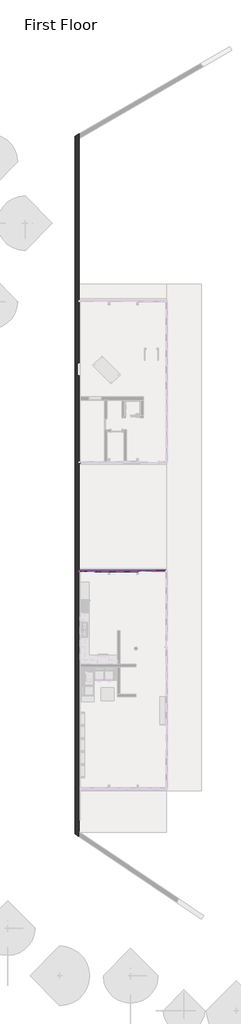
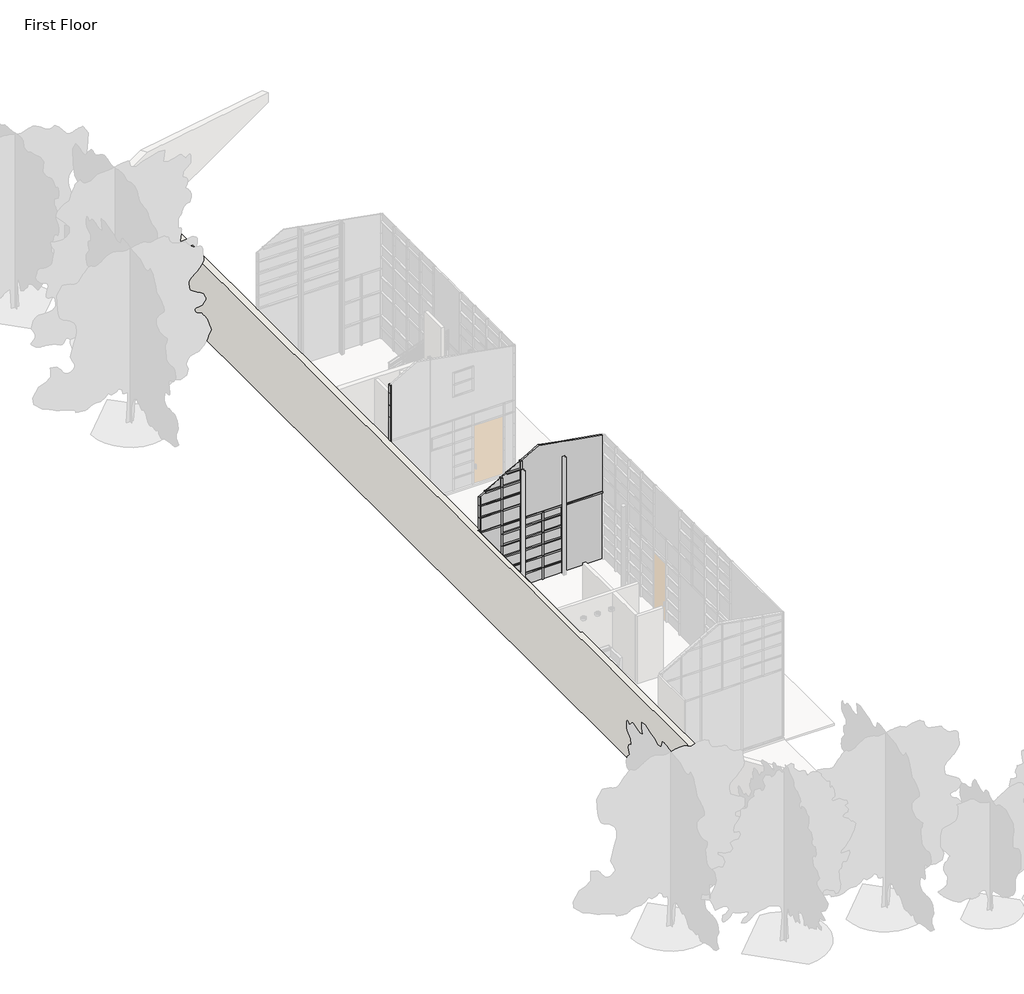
# One storey, part 2 of 9: 78 members, 30 plates, 1 wall.
"""IFC4 building model written with IfcOpenShell, lengths in millimetres."""

from ifc_helpers import new_model, si_unit, origin, place, context, project, spatial, faceted_brep, transform, mapped, element, save
from components import rectangular_mullion_rectangular_mullion_1_0c9537f6, rectangular_mullion_rectangular_mullion_1_8a9972a7, rectangular_mullion_rectangular_mullion_1_04191cc5, rectangular_mullion_rectangular_mullion_1_625e80b1, rectangular_mullion_rectangular_mullion_1_799ad812, rectangular_mullion_rectangular_mullion_1_05a5b005, rectangular_mullion_rectangular_mullion_1_3182e34d, rectangular_mullion_rectangular_mullion_1_9767f737, rectangular_mullion_rectangular_mullion_1_ac8843ff, rectangular_mullion_rectangular_mullion_1_92001cf6, rectangular_mullion_rectangular_mullion_1_4e56fbd5, rectangular_mullion_rectangular_mullion_1_da89ca8f, rectangular_mullion_rectangular_mullion_1_6e77e263, rectangular_mullion_rectangular_mullion_1_47bfaf8a, rectangular_mullion_rectangular_mullion_1_e94b0608, rectangular_mullion_rectangular_mullion_1_73fada49, rectangular_mullion_rectangular_mullion_1_c5a7d1f2, rectangular_mullion_rectangular_mullion_1_b0e0489a, rectangular_mullion_rectangular_mullion_1_e0487b50, system_panel_glazed_4b4da262, system_panel_glazed_849c0ae1, system_panel_glazed_23be9bc1, system_panel_glazed_2f6243bf, system_panel_glazed_5ad847c7, system_panel_glazed_751737c8, system_panel_glazed_610acd6b, system_panel_glazed_ef14c706, system_panel_glazed_11174a6d, system_panel_glazed_4cf37795, system_panel_solid_grey_07544abd, system_panel_solid_white_ec30824c, system_panel_solid_white_56e32685, system_panel_solid_white_18a98e17, system_panel_solid_white_917bb94f, system_panel_solid_white_f0d8491f, system_panel_solid_white_7c94aa88, system_panel_solid_white_6cf558b3, system_panel_solid_white_9fce84d4, system_panel_solid_white_5e570f98, system_panel_solid_white_91adc7ba, system_panel_wood_dark_296b77de

model = new_model("IFC4")

# Units and contexts
model_context = context("Model", 3, world=origin())
ifc_project = project(units=[si_unit("LENGTHUNIT", "METRE", prefix="MILLI")], contexts=[model_context])

# Site, building, storey
site = spatial("IfcSite", under=ifc_project)
building = spatial("IfcBuilding", under=site)
storey = spatial("IfcBuildingStorey", under=building, Name="First Floor", Elevation=0.0)

# Members
placement = place(None, origin())
rectangular_mullion_rectangular_mullion_1_shape = rectangular_mullion_rectangular_mullion_1_0c9537f6(model_context)
element("IfcMember", 1, ObjectType="Rectangular Mullion : Rectangular Mullion 1", at=placement, inside=storey, context=model_context, shape_type="MappedRepresentation", body=[
    mapped(rectangular_mullion_rectangular_mullion_1_shape, transform((-6113.1401664, 24371.1084583, 4876.8), x_axis=(-1.0, 0.0, 0.0), y_axis=(0.0, -1.0, 0.0), z_axis=(0.0, 0.0, 1.0))),
])
rectangular_mullion_rectangular_mullion_1_2_shape = rectangular_mullion_rectangular_mullion_1_8a9972a7(model_context)
element("IfcMember", 2, ObjectType="Rectangular Mullion : Rectangular Mullion 1", at=placement, inside=storey, context=model_context, shape_type="MappedRepresentation", body=[
    mapped(rectangular_mullion_rectangular_mullion_1_2_shape, transform((-6113.1401664, 24371.1084583, 3647.5475583), x_axis=(-1.0, 0.0, 0.0), y_axis=(0.0, -1.0, 0.0), z_axis=(0.0, 0.0, 1.0))),
])
rectangular_mullion_rectangular_mullion_1_3_shape = rectangular_mullion_rectangular_mullion_1_04191cc5(model_context)
element("IfcMember", 3, ObjectType="Rectangular Mullion : Rectangular Mullion 1", at=placement, inside=storey, context=model_context, shape_type="MappedRepresentation", body=[
    mapped(rectangular_mullion_rectangular_mullion_1_3_shape, transform((-6113.1401664, 24371.1084583, 6535.9409051), x_axis=(-1.0, 0.0, 0.0), y_axis=(0.0, -1.0, 0.0), z_axis=(0.0, 0.0, 1.0))),
])
rectangular_mullion_rectangular_mullion_1_4_shape = rectangular_mullion_rectangular_mullion_1_625e80b1(model_context)
element("IfcMember", 4, ObjectType="Rectangular Mullion : Rectangular Mullion 1", at=placement, inside=storey, context=model_context, shape_type="MappedRepresentation", body=[
    mapped(rectangular_mullion_rectangular_mullion_1_4_shape, transform((-4062.0901664, 16751.1084583, 3501.4973635), x_axis=(1.0, 0.0, 0.0), y_axis=(0.0, -1.0, 0.0), z_axis=(0.0, 0.0, -1.0))),
])
element("IfcMember", 5, ObjectType="Rectangular Mullion : Rectangular Mullion 1", at=placement, inside=storey, context=model_context, shape_type="MappedRepresentation", body=[
    mapped(rectangular_mullion_rectangular_mullion_1_4_shape, transform((-5013.5318331, 16751.1084583, 3501.4973635), x_axis=(1.0, 0.0, 0.0), y_axis=(0.0, -1.0, 0.0), z_axis=(0.0, 0.0, -1.0))),
])
rectangular_mullion_rectangular_mullion_1_5_shape = rectangular_mullion_rectangular_mullion_1_799ad812(model_context)
element("IfcMember", 6, ObjectType="Rectangular Mullion : Rectangular Mullion 1", at=placement, inside=storey, context=model_context, shape_type="MappedRepresentation", body=[
    mapped(rectangular_mullion_rectangular_mullion_1_5_shape, transform((-4093.8401664, 16751.1084583, 6096.0), x_axis=(0.0, 0.0, 1.0), y_axis=(0.0, -1.0, 0.0), z_axis=(1.0, 0.0, 0.0))),
])
rectangular_mullion_rectangular_mullion_1_6_shape = rectangular_mullion_rectangular_mullion_1_05a5b005(model_context)
element("IfcMember", 7, ObjectType="Rectangular Mullion : Rectangular Mullion 1", at=placement, inside=storey, context=model_context, shape_type="MappedRepresentation", body=[
    mapped(rectangular_mullion_rectangular_mullion_1_6_shape, transform((-4062.0901664, 16751.1084583, 6096.0), x_axis=(1.0, 0.0, 0.0), y_axis=(0.0, -1.0, 0.0), z_axis=(0.0, 0.0, -1.0))),
])
rectangular_mullion_rectangular_mullion_1_7_shape = rectangular_mullion_rectangular_mullion_1_3182e34d(model_context)
element("IfcMember", 8, ObjectType="Rectangular Mullion : Rectangular Mullion 1", at=placement, inside=storey, context=model_context, shape_type="MappedRepresentation", body=[
    mapped(rectangular_mullion_rectangular_mullion_1_7_shape, transform((-5013.5318331, 16751.1084583, 5486.4), x_axis=(1.0, 0.0, 0.0), y_axis=(0.0, -1.0, 0.0), z_axis=(0.0, 0.0, -1.0))),
])
rectangular_mullion_rectangular_mullion_1_8_shape = rectangular_mullion_rectangular_mullion_1_9767f737(model_context)
element("IfcMember", 9, ObjectType="Rectangular Mullion : Rectangular Mullion 1", at=placement, inside=storey, context=model_context, shape_type="MappedRepresentation", body=[
    mapped(rectangular_mullion_rectangular_mullion_1_8_shape, transform((-5013.5318331, 16751.1084583, 3048.0), x_axis=(1.0, 0.0, 0.0), y_axis=(0.0, -1.0, 0.0), z_axis=(0.0, 0.0, -1.0))),
])
element("IfcMember", 10, ObjectType="Rectangular Mullion : Rectangular Mullion 1", at=placement, inside=storey, context=model_context, shape_type="MappedRepresentation", body=[
    mapped(rectangular_mullion_rectangular_mullion_1_8_shape, transform((-4062.0901664, 16751.1084583, 3048.0), x_axis=(1.0, 0.0, 0.0), y_axis=(0.0, -1.0, 0.0), z_axis=(0.0, 0.0, -1.0))),
])
rectangular_mullion_rectangular_mullion_1_9_shape = rectangular_mullion_rectangular_mullion_1_ac8843ff(model_context)
element("IfcMember", 11, ObjectType="Rectangular Mullion : Rectangular Mullion 1", at=placement, inside=storey, context=model_context, shape_type="MappedRepresentation", body=[
    mapped(rectangular_mullion_rectangular_mullion_1_9_shape, transform((-3001.6401664, 16751.1084583, 3048.0), x_axis=(1.0, 0.0, 0.0), y_axis=(0.0, -1.0, 0.0), z_axis=(0.0, 0.0, -1.0))),
])
element("IfcMember", 12, ObjectType="Rectangular Mullion : Rectangular Mullion 1", at=placement, inside=storey, context=model_context, shape_type="MappedRepresentation", body=[
    mapped(rectangular_mullion_rectangular_mullion_1_9_shape, transform((-2042.7901664, 16751.1084583, 3048.0), x_axis=(1.0, 0.0, 0.0), y_axis=(0.0, -1.0, 0.0), z_axis=(0.0, 0.0, -1.0))),
])
rectangular_mullion_rectangular_mullion_1_10_shape = rectangular_mullion_rectangular_mullion_1_92001cf6(model_context)
element("IfcMember", 13, ObjectType="Rectangular Mullion : Rectangular Mullion 1", at=placement, inside=storey, context=model_context, shape_type="MappedRepresentation", body=[
    mapped(rectangular_mullion_rectangular_mullion_1_10_shape, transform((-6113.1401664, 16751.1084583, 4267.2), x_axis=(-1.0, 0.0, 0.0), y_axis=(0.0, -1.0, 0.0), z_axis=(0.0, 0.0, 1.0))),
])
rectangular_mullion_rectangular_mullion_1_11_shape = rectangular_mullion_rectangular_mullion_1_4e56fbd5(model_context)
element("IfcMember", 14, ObjectType="Rectangular Mullion : Rectangular Mullion 1", at=placement, inside=storey, context=model_context, shape_type="MappedRepresentation", body=[
    mapped(rectangular_mullion_rectangular_mullion_1_11_shape, transform((-6113.1401664, 16751.1084583, 3501.4973635), x_axis=(-1.0, 0.0, 0.0), y_axis=(0.0, -1.0, 0.0), z_axis=(0.0, 0.0, 1.0))),
])
rectangular_mullion_rectangular_mullion_1_12_shape = rectangular_mullion_rectangular_mullion_1_da89ca8f(model_context)
element("IfcMember", 15, ObjectType="Rectangular Mullion : Rectangular Mullion 1", at=placement, inside=storey, context=model_context, shape_type="MappedRepresentation", body=[
    mapped(rectangular_mullion_rectangular_mullion_1_12_shape, transform((-5045.2818331, 16751.1084583, 5486.4), x_axis=(0.0, 0.0, 1.0), y_axis=(0.0, -1.0, 0.0), z_axis=(1.0, 0.0, 0.0))),
])
element("IfcMember", 16, ObjectType="Rectangular Mullion : Rectangular Mullion 1", at=placement, inside=storey, context=model_context, shape_type="MappedRepresentation", body=[
    mapped(rectangular_mullion_rectangular_mullion_1_3_shape, transform((-6113.1401664, 16751.1084583, 5316.7409051), x_axis=(-1.0, 0.0, 0.0), y_axis=(0.0, -1.0, 0.0), z_axis=(0.0, 0.0, 1.0))),
])
rectangular_mullion_rectangular_mullion_1_13_shape = rectangular_mullion_rectangular_mullion_1_6e77e263(model_context)
element("IfcMember", 17, ObjectType="Rectangular Mullion : Rectangular Mullion 1", at=placement, inside=storey, context=model_context, shape_type="MappedRepresentation", body=[
    mapped(rectangular_mullion_rectangular_mullion_1_13_shape, transform((-5013.5318331, 16751.1084583, 4876.8), x_axis=(1.0, 0.0, 0.0), y_axis=(0.0, -1.0, 0.0), z_axis=(0.0, 0.0, -1.0))),
])
element("IfcMember", 18, ObjectType="Rectangular Mullion : Rectangular Mullion 1", at=placement, inside=storey, context=model_context, shape_type="MappedRepresentation", body=[
    mapped(rectangular_mullion_rectangular_mullion_1_13_shape, transform((-4062.0901664, 16751.1084583, 4876.8), x_axis=(1.0, 0.0, 0.0), y_axis=(0.0, -1.0, 0.0), z_axis=(0.0, 0.0, -1.0))),
])
element("IfcMember", 19, ObjectType="Rectangular Mullion : Rectangular Mullion 1", at=placement, inside=storey, context=model_context, shape_type="MappedRepresentation", body=[
    mapped(rectangular_mullion_rectangular_mullion_1_13_shape, transform((-4062.0901664, 16751.1084583, 5486.4), x_axis=(1.0, 0.0, 0.0), y_axis=(0.0, -1.0, 0.0), z_axis=(0.0, 0.0, -1.0))),
])
element("IfcMember", 20, ObjectType="Rectangular Mullion : Rectangular Mullion 1", at=placement, inside=storey, context=model_context, shape_type="MappedRepresentation", body=[
    mapped(rectangular_mullion_rectangular_mullion_1_13_shape, transform((-5013.5318331, 16751.1084583, 4267.2), x_axis=(1.0, 0.0, 0.0), y_axis=(0.0, -1.0, 0.0), z_axis=(0.0, 0.0, -1.0))),
])
element("IfcMember", 21, ObjectType="Rectangular Mullion : Rectangular Mullion 1", at=placement, inside=storey, context=model_context, shape_type="MappedRepresentation", body=[
    mapped(rectangular_mullion_rectangular_mullion_1_13_shape, transform((-4062.0901664, 16751.1084583, 4267.2), x_axis=(1.0, 0.0, 0.0), y_axis=(0.0, -1.0, 0.0), z_axis=(0.0, 0.0, -1.0))),
])
element("IfcMember", 22, ObjectType="Rectangular Mullion : Rectangular Mullion 1", at=placement, inside=storey, context=model_context, shape_type="MappedRepresentation", body=[
    mapped(rectangular_mullion_rectangular_mullion_1_13_shape, transform((-5013.5318331, 16751.1084583, 2438.4), x_axis=(1.0, 0.0, 0.0), y_axis=(0.0, -1.0, 0.0), z_axis=(0.0, 0.0, -1.0))),
])
element("IfcMember", 23, ObjectType="Rectangular Mullion : Rectangular Mullion 1", at=placement, inside=storey, context=model_context, shape_type="MappedRepresentation", body=[
    mapped(rectangular_mullion_rectangular_mullion_1_13_shape, transform((-4062.0901664, 16751.1084583, 2438.4), x_axis=(1.0, 0.0, 0.0), y_axis=(0.0, -1.0, 0.0), z_axis=(0.0, 0.0, -1.0))),
])
element("IfcMember", 24, ObjectType="Rectangular Mullion : Rectangular Mullion 1", at=placement, inside=storey, context=model_context, shape_type="MappedRepresentation", body=[
    mapped(rectangular_mullion_rectangular_mullion_1_13_shape, transform((-3001.6401664, 16751.1084583, 2438.4), x_axis=(1.0, 0.0, 0.0), y_axis=(0.0, -1.0, 0.0), z_axis=(0.0, 0.0, -1.0))),
])
element("IfcMember", 25, ObjectType="Rectangular Mullion : Rectangular Mullion 1", at=placement, inside=storey, context=model_context, shape_type="MappedRepresentation", body=[
    mapped(rectangular_mullion_rectangular_mullion_1_13_shape, transform((-2042.7901664, 16751.1084583, 2438.4), x_axis=(1.0, 0.0, 0.0), y_axis=(0.0, -1.0, 0.0), z_axis=(0.0, 0.0, -1.0))),
])
element("IfcMember", 26, ObjectType="Rectangular Mullion : Rectangular Mullion 1", at=placement, inside=storey, context=model_context, shape_type="MappedRepresentation", body=[
    mapped(rectangular_mullion_rectangular_mullion_1_13_shape, transform((-5013.5318331, 16751.1084583, 1219.2), x_axis=(1.0, 0.0, 0.0), y_axis=(0.0, -1.0, 0.0), z_axis=(0.0, 0.0, -1.0))),
])
element("IfcMember", 27, ObjectType="Rectangular Mullion : Rectangular Mullion 1", at=placement, inside=storey, context=model_context, shape_type="MappedRepresentation", body=[
    mapped(rectangular_mullion_rectangular_mullion_1_13_shape, transform((-4062.0901664, 16751.1084583, 1219.2), x_axis=(1.0, 0.0, 0.0), y_axis=(0.0, -1.0, 0.0), z_axis=(0.0, 0.0, -1.0))),
])
element("IfcMember", 28, ObjectType="Rectangular Mullion : Rectangular Mullion 1", at=placement, inside=storey, context=model_context, shape_type="MappedRepresentation", body=[
    mapped(rectangular_mullion_rectangular_mullion_1_13_shape, transform((-3001.6401664, 16751.1084583, 1219.2), x_axis=(1.0, 0.0, 0.0), y_axis=(0.0, -1.0, 0.0), z_axis=(0.0, 0.0, -1.0))),
])
element("IfcMember", 29, ObjectType="Rectangular Mullion : Rectangular Mullion 1", at=placement, inside=storey, context=model_context, shape_type="MappedRepresentation", body=[
    mapped(rectangular_mullion_rectangular_mullion_1_13_shape, transform((-2042.7901664, 16751.1084583, 1219.2), x_axis=(1.0, 0.0, 0.0), y_axis=(0.0, -1.0, 0.0), z_axis=(0.0, 0.0, -1.0))),
])
element("IfcMember", 30, ObjectType="Rectangular Mullion : Rectangular Mullion 1", at=placement, inside=storey, context=model_context, shape_type="MappedRepresentation", body=[
    mapped(rectangular_mullion_rectangular_mullion_1_13_shape, transform((-5013.5318331, 16751.1084583, 1828.8), x_axis=(1.0, 0.0, 0.0), y_axis=(0.0, -1.0, 0.0), z_axis=(0.0, 0.0, -1.0))),
])
element("IfcMember", 31, ObjectType="Rectangular Mullion : Rectangular Mullion 1", at=placement, inside=storey, context=model_context, shape_type="MappedRepresentation", body=[
    mapped(rectangular_mullion_rectangular_mullion_1_13_shape, transform((-4062.0901664, 16751.1084583, 1828.8), x_axis=(1.0, 0.0, 0.0), y_axis=(0.0, -1.0, 0.0), z_axis=(0.0, 0.0, -1.0))),
])
element("IfcMember", 32, ObjectType="Rectangular Mullion : Rectangular Mullion 1", at=placement, inside=storey, context=model_context, shape_type="MappedRepresentation", body=[
    mapped(rectangular_mullion_rectangular_mullion_1_13_shape, transform((-3001.6401664, 16751.1084583, 1828.8), x_axis=(1.0, 0.0, 0.0), y_axis=(0.0, -1.0, 0.0), z_axis=(0.0, 0.0, -1.0))),
])
element("IfcMember", 33, ObjectType="Rectangular Mullion : Rectangular Mullion 1", at=placement, inside=storey, context=model_context, shape_type="MappedRepresentation", body=[
    mapped(rectangular_mullion_rectangular_mullion_1_13_shape, transform((-2042.7901664, 16751.1084583, 1828.8), x_axis=(1.0, 0.0, 0.0), y_axis=(0.0, -1.0, 0.0), z_axis=(0.0, 0.0, -1.0))),
])
element("IfcMember", 34, ObjectType="Rectangular Mullion : Rectangular Mullion 1", at=placement, inside=storey, context=model_context, shape_type="MappedRepresentation", body=[
    mapped(rectangular_mullion_rectangular_mullion_1_13_shape, transform((-5013.5318331, 16751.1084583, 609.6), x_axis=(1.0, 0.0, 0.0), y_axis=(0.0, -1.0, 0.0), z_axis=(0.0, 0.0, -1.0))),
])
element("IfcMember", 35, ObjectType="Rectangular Mullion : Rectangular Mullion 1", at=placement, inside=storey, context=model_context, shape_type="MappedRepresentation", body=[
    mapped(rectangular_mullion_rectangular_mullion_1_13_shape, transform((-4062.0901664, 16751.1084583, 609.6), x_axis=(1.0, 0.0, 0.0), y_axis=(0.0, -1.0, 0.0), z_axis=(0.0, 0.0, -1.0))),
])
element("IfcMember", 36, ObjectType="Rectangular Mullion : Rectangular Mullion 1", at=placement, inside=storey, context=model_context, shape_type="MappedRepresentation", body=[
    mapped(rectangular_mullion_rectangular_mullion_1_13_shape, transform((-3001.6401664, 16751.1084583, 609.6), x_axis=(1.0, 0.0, 0.0), y_axis=(0.0, -1.0, 0.0), z_axis=(0.0, 0.0, -1.0))),
])
element("IfcMember", 37, ObjectType="Rectangular Mullion : Rectangular Mullion 1", at=placement, inside=storey, context=model_context, shape_type="MappedRepresentation", body=[
    mapped(rectangular_mullion_rectangular_mullion_1_13_shape, transform((-2042.7901664, 16751.1084583, 609.6), x_axis=(1.0, 0.0, 0.0), y_axis=(0.0, -1.0, 0.0), z_axis=(0.0, 0.0, -1.0))),
])
element("IfcMember", 38, ObjectType="Rectangular Mullion : Rectangular Mullion 1", at=placement, inside=storey, context=model_context, shape_type="MappedRepresentation", body=[
    mapped(rectangular_mullion_rectangular_mullion_1_13_shape, transform((-4062.0901664, 16751.1084583, 0.0), x_axis=(1.0, 0.0, 0.0), y_axis=(0.0, -1.0, 0.0), z_axis=(0.0, 0.0, -1.0))),
])
element("IfcMember", 39, ObjectType="Rectangular Mullion : Rectangular Mullion 1", at=placement, inside=storey, context=model_context, shape_type="MappedRepresentation", body=[
    mapped(rectangular_mullion_rectangular_mullion_1_13_shape, transform((-2042.7901664, 16751.1084583, 0.0), x_axis=(1.0, 0.0, 0.0), y_axis=(0.0, -1.0, 0.0), z_axis=(0.0, 0.0, -1.0))),
])
element("IfcMember", 40, ObjectType="Rectangular Mullion : Rectangular Mullion 1", at=placement, inside=storey, context=model_context, shape_type="MappedRepresentation", body=[
    mapped(rectangular_mullion_rectangular_mullion_1_13_shape, transform((-5013.5318331, 16751.1084583, 0.0), x_axis=(1.0, 0.0, 0.0), y_axis=(0.0, -1.0, 0.0), z_axis=(0.0, 0.0, -1.0))),
])
element("IfcMember", 41, ObjectType="Rectangular Mullion : Rectangular Mullion 1", at=placement, inside=storey, context=model_context, shape_type="MappedRepresentation", body=[
    mapped(rectangular_mullion_rectangular_mullion_1_13_shape, transform((-3001.6401664, 16751.1084583, 0.0), x_axis=(1.0, 0.0, 0.0), y_axis=(0.0, -1.0, 0.0), z_axis=(0.0, 0.0, -1.0))),
])
rectangular_mullion_rectangular_mullion_1_14_shape = rectangular_mullion_rectangular_mullion_1_47bfaf8a(model_context)
element("IfcMember", 42, ObjectType="Rectangular Mullion : Rectangular Mullion 1", at=placement, inside=storey, context=model_context, shape_type="MappedRepresentation", body=[
    mapped(rectangular_mullion_rectangular_mullion_1_14_shape, transform((-6113.1401664, 16751.1084583, 4876.8), x_axis=(-1.0, 0.0, 0.0), y_axis=(0.0, -1.0, 0.0), z_axis=(0.0, 0.0, 1.0))),
])
element("IfcMember", 43, ObjectType="Rectangular Mullion : Rectangular Mullion 1", at=placement, inside=storey, context=model_context, shape_type="MappedRepresentation", body=[
    mapped(rectangular_mullion_rectangular_mullion_1_14_shape, transform((-6113.1401664, 24371.1084583, 5486.4), x_axis=(-1.0, 0.0, 0.0), y_axis=(0.0, -1.0, 0.0), z_axis=(0.0, 0.0, 1.0))),
])
element("IfcMember", 44, ObjectType="Rectangular Mullion : Rectangular Mullion 1", at=placement, inside=storey, context=model_context, shape_type="MappedRepresentation", body=[
    mapped(rectangular_mullion_rectangular_mullion_1_14_shape, transform((-6113.1401664, 24371.1084583, 6096.0), x_axis=(-1.0, 0.0, 0.0), y_axis=(0.0, -1.0, 0.0), z_axis=(0.0, 0.0, 1.0))),
])
element("IfcMember", 45, ObjectType="Rectangular Mullion : Rectangular Mullion 1", at=placement, inside=storey, context=model_context, shape_type="MappedRepresentation", body=[
    mapped(rectangular_mullion_rectangular_mullion_1_14_shape, transform((-6113.1401664, 24371.1084583, 1828.8), x_axis=(-1.0, 0.0, 0.0), y_axis=(0.0, -1.0, 0.0), z_axis=(0.0, 0.0, 1.0))),
])
element("IfcMember", 46, ObjectType="Rectangular Mullion : Rectangular Mullion 1", at=placement, inside=storey, context=model_context, shape_type="MappedRepresentation", body=[
    mapped(rectangular_mullion_rectangular_mullion_1_14_shape, transform((-6113.1401664, 24371.1084583, 1219.2), x_axis=(-1.0, 0.0, 0.0), y_axis=(0.0, -1.0, 0.0), z_axis=(0.0, 0.0, 1.0))),
])
element("IfcMember", 47, ObjectType="Rectangular Mullion : Rectangular Mullion 1", at=placement, inside=storey, context=model_context, shape_type="MappedRepresentation", body=[
    mapped(rectangular_mullion_rectangular_mullion_1_14_shape, transform((-6113.1401664, 24371.1084583, 3048.0), x_axis=(-1.0, 0.0, 0.0), y_axis=(0.0, -1.0, 0.0), z_axis=(0.0, 0.0, 1.0))),
])
element("IfcMember", 48, ObjectType="Rectangular Mullion : Rectangular Mullion 1", at=placement, inside=storey, context=model_context, shape_type="MappedRepresentation", body=[
    mapped(rectangular_mullion_rectangular_mullion_1_14_shape, transform((-6113.1401664, 24371.1084583, 2438.4), x_axis=(-1.0, 0.0, 0.0), y_axis=(0.0, -1.0, 0.0), z_axis=(0.0, 0.0, 1.0))),
])
element("IfcMember", 49, ObjectType="Rectangular Mullion : Rectangular Mullion 1", at=placement, inside=storey, context=model_context, shape_type="MappedRepresentation", body=[
    mapped(rectangular_mullion_rectangular_mullion_1_14_shape, transform((-6113.1401664, 24371.1084583, 609.6), x_axis=(-1.0, 0.0, 0.0), y_axis=(0.0, -1.0, 0.0), z_axis=(0.0, 0.0, 1.0))),
])
element("IfcMember", 50, ObjectType="Rectangular Mullion : Rectangular Mullion 1", at=placement, inside=storey, context=model_context, shape_type="MappedRepresentation", body=[
    mapped(rectangular_mullion_rectangular_mullion_1_14_shape, transform((-6113.1401664, 16751.1084583, 1828.8), x_axis=(-1.0, 0.0, 0.0), y_axis=(0.0, -1.0, 0.0), z_axis=(0.0, 0.0, 1.0))),
])
element("IfcMember", 51, ObjectType="Rectangular Mullion : Rectangular Mullion 1", at=placement, inside=storey, context=model_context, shape_type="MappedRepresentation", body=[
    mapped(rectangular_mullion_rectangular_mullion_1_14_shape, transform((-6113.1401664, 16751.1084583, 3048.0), x_axis=(-1.0, 0.0, 0.0), y_axis=(0.0, -1.0, 0.0), z_axis=(0.0, 0.0, 1.0))),
])
element("IfcMember", 52, ObjectType="Rectangular Mullion : Rectangular Mullion 1", at=placement, inside=storey, context=model_context, shape_type="MappedRepresentation", body=[
    mapped(rectangular_mullion_rectangular_mullion_1_14_shape, transform((-6113.1401664, 16751.1084583, 1219.2), x_axis=(-1.0, 0.0, 0.0), y_axis=(0.0, -1.0, 0.0), z_axis=(0.0, 0.0, 1.0))),
])
element("IfcMember", 53, ObjectType="Rectangular Mullion : Rectangular Mullion 1", at=placement, inside=storey, context=model_context, shape_type="MappedRepresentation", body=[
    mapped(rectangular_mullion_rectangular_mullion_1_14_shape, transform((-6113.1401664, 16751.1084583, 2438.4), x_axis=(-1.0, 0.0, 0.0), y_axis=(0.0, -1.0, 0.0), z_axis=(0.0, 0.0, 1.0))),
])
rectangular_mullion_rectangular_mullion_1_15_shape = rectangular_mullion_rectangular_mullion_1_e94b0608(model_context)
element("IfcMember", 54, ObjectType="Rectangular Mullion : Rectangular Mullion 1", at=placement, inside=storey, context=model_context, shape_type="MappedRepresentation", body=[
    mapped(rectangular_mullion_rectangular_mullion_1_15_shape, transform((-5045.2818331, 16751.1084583, 3501.4973635), x_axis=(0.0, 0.0, 1.0), y_axis=(0.0, -1.0, 0.0), z_axis=(1.0, 0.0, 0.0))),
])
element("IfcMember", 55, ObjectType="Rectangular Mullion : Rectangular Mullion 1", at=placement, inside=storey, context=model_context, shape_type="MappedRepresentation", body=[
    mapped(rectangular_mullion_rectangular_mullion_1_15_shape, transform((-5045.2818331, 16751.1084583, 4876.8), x_axis=(0.0, 0.0, 1.0), y_axis=(0.0, -1.0, 0.0), z_axis=(1.0, 0.0, 0.0))),
])
element("IfcMember", 56, ObjectType="Rectangular Mullion : Rectangular Mullion 1", at=placement, inside=storey, context=model_context, shape_type="MappedRepresentation", body=[
    mapped(rectangular_mullion_rectangular_mullion_1_15_shape, transform((-5045.2818331, 16751.1084583, 4267.2), x_axis=(0.0, 0.0, 1.0), y_axis=(0.0, -1.0, 0.0), z_axis=(1.0, 0.0, 0.0))),
])
rectangular_mullion_rectangular_mullion_1_16_shape = rectangular_mullion_rectangular_mullion_1_73fada49(model_context)
element("IfcMember", 57, ObjectType="Rectangular Mullion : Rectangular Mullion 1", at=placement, inside=storey, context=model_context, shape_type="MappedRepresentation", body=[
    mapped(rectangular_mullion_rectangular_mullion_1_16_shape, transform((-3033.3901664, 16751.1084583, 3501.4973635), x_axis=(0.0, 0.0, 1.0), y_axis=(0.0, -1.0, 0.0), z_axis=(1.0, 0.0, 0.0))),
])
element("IfcMember", 58, ObjectType="Rectangular Mullion : Rectangular Mullion 1", at=placement, inside=storey, context=model_context, shape_type="MappedRepresentation", body=[
    mapped(rectangular_mullion_rectangular_mullion_1_16_shape, transform((-3033.3901664, 16751.1084583, 2438.4), x_axis=(0.0, 0.0, 1.0), y_axis=(0.0, -1.0, 0.0), z_axis=(1.0, 0.0, 0.0))),
])
element("IfcMember", 59, ObjectType="Rectangular Mullion : Rectangular Mullion 1", at=placement, inside=storey, context=model_context, shape_type="MappedRepresentation", body=[
    mapped(rectangular_mullion_rectangular_mullion_1_16_shape, transform((-3033.3901664, 16751.1084583, 1219.2), x_axis=(0.0, 0.0, 1.0), y_axis=(0.0, -1.0, 0.0), z_axis=(1.0, 0.0, 0.0))),
])
element("IfcMember", 60, ObjectType="Rectangular Mullion : Rectangular Mullion 1", at=placement, inside=storey, context=model_context, shape_type="MappedRepresentation", body=[
    mapped(rectangular_mullion_rectangular_mullion_1_16_shape, transform((-3033.3901664, 16751.1084583, 3048.0), x_axis=(0.0, 0.0, 1.0), y_axis=(0.0, -1.0, 0.0), z_axis=(1.0, 0.0, 0.0))),
])
element("IfcMember", 61, ObjectType="Rectangular Mullion : Rectangular Mullion 1", at=placement, inside=storey, context=model_context, shape_type="MappedRepresentation", body=[
    mapped(rectangular_mullion_rectangular_mullion_1_16_shape, transform((-3033.3901664, 16751.1084583, 1828.8), x_axis=(0.0, 0.0, 1.0), y_axis=(0.0, -1.0, 0.0), z_axis=(1.0, 0.0, 0.0))),
])
element("IfcMember", 62, ObjectType="Rectangular Mullion : Rectangular Mullion 1", at=placement, inside=storey, context=model_context, shape_type="MappedRepresentation", body=[
    mapped(rectangular_mullion_rectangular_mullion_1_16_shape, transform((-3033.3901664, 16751.1084583, 609.6), x_axis=(0.0, 0.0, 1.0), y_axis=(0.0, -1.0, 0.0), z_axis=(1.0, 0.0, 0.0))),
])
rectangular_mullion_rectangular_mullion_1_17_shape = rectangular_mullion_rectangular_mullion_1_c5a7d1f2(model_context)
element("IfcMember", 63, ObjectType="Rectangular Mullion : Rectangular Mullion 1", at=placement, inside=storey, context=model_context, shape_type="MappedRepresentation", body=[
    mapped(rectangular_mullion_rectangular_mullion_1_17_shape, transform((-55.2401664, 16751.1084583, 3501.4973635), x_axis=(0.0, 0.0, 1.0), y_axis=(0.0, -1.0, 0.0), z_axis=(1.0, 0.0, 0.0))),
])
rectangular_mullion_rectangular_mullion_1_18_shape = rectangular_mullion_rectangular_mullion_1_b0e0489a(model_context)
element("IfcMember", 64, ObjectType="Rectangular Mullion : Rectangular Mullion 1", at=placement, inside=storey, context=model_context, shape_type="MappedRepresentation", body=[
    mapped(rectangular_mullion_rectangular_mullion_1_18_shape, transform((-4093.8401664, 16751.1084583, 3501.4973635), x_axis=(0.0, 0.0, 1.0), y_axis=(0.0, -1.0, 0.0), z_axis=(1.0, 0.0, 0.0))),
])
element("IfcMember", 65, ObjectType="Rectangular Mullion : Rectangular Mullion 1", at=placement, inside=storey, context=model_context, shape_type="MappedRepresentation", body=[
    mapped(rectangular_mullion_rectangular_mullion_1_18_shape, transform((-4093.8401664, 16751.1084583, 4876.8), x_axis=(0.0, 0.0, 1.0), y_axis=(0.0, -1.0, 0.0), z_axis=(1.0, 0.0, 0.0))),
])
element("IfcMember", 66, ObjectType="Rectangular Mullion : Rectangular Mullion 1", at=placement, inside=storey, context=model_context, shape_type="MappedRepresentation", body=[
    mapped(rectangular_mullion_rectangular_mullion_1_18_shape, transform((-4093.8401664, 16751.1084583, 5486.4), x_axis=(0.0, 0.0, 1.0), y_axis=(0.0, -1.0, 0.0), z_axis=(1.0, 0.0, 0.0))),
])
element("IfcMember", 67, ObjectType="Rectangular Mullion : Rectangular Mullion 1", at=placement, inside=storey, context=model_context, shape_type="MappedRepresentation", body=[
    mapped(rectangular_mullion_rectangular_mullion_1_18_shape, transform((-4093.8401664, 16751.1084583, 4267.2), x_axis=(0.0, 0.0, 1.0), y_axis=(0.0, -1.0, 0.0), z_axis=(1.0, 0.0, 0.0))),
])
element("IfcMember", 68, ObjectType="Rectangular Mullion : Rectangular Mullion 1", at=placement, inside=storey, context=model_context, shape_type="MappedRepresentation", body=[
    mapped(rectangular_mullion_rectangular_mullion_1_18_shape, transform((-4093.8401664, 16751.1084583, 2438.4), x_axis=(0.0, 0.0, 1.0), y_axis=(0.0, -1.0, 0.0), z_axis=(1.0, 0.0, 0.0))),
])
element("IfcMember", 69, ObjectType="Rectangular Mullion : Rectangular Mullion 1", at=placement, inside=storey, context=model_context, shape_type="MappedRepresentation", body=[
    mapped(rectangular_mullion_rectangular_mullion_1_18_shape, transform((-4093.8401664, 16751.1084583, 1219.2), x_axis=(0.0, 0.0, 1.0), y_axis=(0.0, -1.0, 0.0), z_axis=(1.0, 0.0, 0.0))),
])
element("IfcMember", 70, ObjectType="Rectangular Mullion : Rectangular Mullion 1", at=placement, inside=storey, context=model_context, shape_type="MappedRepresentation", body=[
    mapped(rectangular_mullion_rectangular_mullion_1_18_shape, transform((-4093.8401664, 16751.1084583, 3048.0), x_axis=(0.0, 0.0, 1.0), y_axis=(0.0, -1.0, 0.0), z_axis=(1.0, 0.0, 0.0))),
])
element("IfcMember", 71, ObjectType="Rectangular Mullion : Rectangular Mullion 1", at=placement, inside=storey, context=model_context, shape_type="MappedRepresentation", body=[
    mapped(rectangular_mullion_rectangular_mullion_1_18_shape, transform((-4093.8401664, 16751.1084583, 1828.8), x_axis=(0.0, 0.0, 1.0), y_axis=(0.0, -1.0, 0.0), z_axis=(1.0, 0.0, 0.0))),
])
element("IfcMember", 72, ObjectType="Rectangular Mullion : Rectangular Mullion 1", at=placement, inside=storey, context=model_context, shape_type="MappedRepresentation", body=[
    mapped(rectangular_mullion_rectangular_mullion_1_18_shape, transform((-4093.8401664, 16751.1084583, 609.6), x_axis=(0.0, 0.0, 1.0), y_axis=(0.0, -1.0, 0.0), z_axis=(1.0, 0.0, 0.0))),
])
rectangular_mullion_rectangular_mullion_1_19_shape = rectangular_mullion_rectangular_mullion_1_e0487b50(model_context)
element("IfcMember", 73, ObjectType="Rectangular Mullion : Rectangular Mullion 1", at=placement, inside=storey, context=model_context, shape_type="MappedRepresentation", body=[
    mapped(rectangular_mullion_rectangular_mullion_1_19_shape, transform((-2074.5401664, 16751.1084583, 3501.4973635), x_axis=(0.0, 0.0, 1.0), y_axis=(0.0, -1.0, 0.0), z_axis=(1.0, 0.0, 0.0))),
])
element("IfcMember", 74, ObjectType="Rectangular Mullion : Rectangular Mullion 1", at=placement, inside=storey, context=model_context, shape_type="MappedRepresentation", body=[
    mapped(rectangular_mullion_rectangular_mullion_1_19_shape, transform((-2074.5401664, 16751.1084583, 2438.4), x_axis=(0.0, 0.0, 1.0), y_axis=(0.0, -1.0, 0.0), z_axis=(1.0, 0.0, 0.0))),
])
element("IfcMember", 75, ObjectType="Rectangular Mullion : Rectangular Mullion 1", at=placement, inside=storey, context=model_context, shape_type="MappedRepresentation", body=[
    mapped(rectangular_mullion_rectangular_mullion_1_19_shape, transform((-2074.5401664, 16751.1084583, 1219.2), x_axis=(0.0, 0.0, 1.0), y_axis=(0.0, -1.0, 0.0), z_axis=(1.0, 0.0, 0.0))),
])
element("IfcMember", 76, ObjectType="Rectangular Mullion : Rectangular Mullion 1", at=placement, inside=storey, context=model_context, shape_type="MappedRepresentation", body=[
    mapped(rectangular_mullion_rectangular_mullion_1_19_shape, transform((-2074.5401664, 16751.1084583, 3048.0), x_axis=(0.0, 0.0, 1.0), y_axis=(0.0, -1.0, 0.0), z_axis=(1.0, 0.0, 0.0))),
])
element("IfcMember", 77, ObjectType="Rectangular Mullion : Rectangular Mullion 1", at=placement, inside=storey, context=model_context, shape_type="MappedRepresentation", body=[
    mapped(rectangular_mullion_rectangular_mullion_1_19_shape, transform((-2074.5401664, 16751.1084583, 1828.8), x_axis=(0.0, 0.0, 1.0), y_axis=(0.0, -1.0, 0.0), z_axis=(1.0, 0.0, 0.0))),
])
element("IfcMember", 78, ObjectType="Rectangular Mullion : Rectangular Mullion 1", at=placement, inside=storey, context=model_context, shape_type="MappedRepresentation", body=[
    mapped(rectangular_mullion_rectangular_mullion_1_19_shape, transform((-2074.5401664, 16751.1084583, 609.6), x_axis=(0.0, 0.0, 1.0), y_axis=(0.0, -1.0, 0.0), z_axis=(1.0, 0.0, 0.0))),
])

# Plates
system_panel_glazed_shape = system_panel_glazed_4b4da262(model_context)
element("IfcPlate", 79, ObjectType="System Panel : Glazed", at=placement, inside=storey, context=model_context, shape_type="MappedRepresentation", body=[
    mapped(system_panel_glazed_shape, transform((-1033.1401664, 16751.1084583, 0.0), x_axis=(1.0, 0.0, 0.0), y_axis=(0.0, 1.0, 0.0), z_axis=(0.0, 0.0, 1.0))),
])
system_panel_glazed_2_shape = system_panel_glazed_849c0ae1(model_context)
element("IfcPlate", 80, ObjectType="System Panel : Glazed", at=placement, inside=storey, context=model_context, shape_type="MappedRepresentation", body=[
    mapped(system_panel_glazed_2_shape, transform((-4401.1356876, 16751.1084583, 6127.75), x_axis=(1.0, 0.0, 0.0), y_axis=(0.0, 1.0, 0.0), z_axis=(0.0, 0.0, 1.0))),
])
system_panel_glazed_3_shape = system_panel_glazed_23be9bc1(model_context)
element("IfcPlate", 81, ObjectType="System Panel : Glazed", at=placement, inside=storey, context=model_context, shape_type="MappedRepresentation", body=[
    mapped(system_panel_glazed_3_shape, transform((-4553.6859998, 16751.1084583, 5518.15), x_axis=(1.0, 0.0, 0.0), y_axis=(0.0, 1.0, 0.0), z_axis=(0.0, 0.0, 1.0))),
])
system_panel_glazed_4_shape = system_panel_glazed_2f6243bf(model_context)
element("IfcPlate", 82, ObjectType="System Panel : Glazed", at=placement, inside=storey, context=model_context, shape_type="MappedRepresentation", body=[
    mapped(system_panel_glazed_4_shape, transform((-4537.8109998, 16751.1084583, 3079.75), x_axis=(1.0, 0.0, 0.0), y_axis=(0.0, 1.0, 0.0), z_axis=(0.0, 0.0, 1.0))),
])
system_panel_glazed_5_shape = system_panel_glazed_5ad847c7(model_context)
element("IfcPlate", 83, ObjectType="System Panel : Glazed", at=placement, inside=storey, context=model_context, shape_type="MappedRepresentation", body=[
    mapped(system_panel_glazed_5_shape, transform((-3531.8651664, 16751.1084583, 3079.75), x_axis=(1.0, 0.0, 0.0), y_axis=(0.0, 1.0, 0.0), z_axis=(0.0, 0.0, 1.0))),
])
system_panel_glazed_6_shape = system_panel_glazed_751737c8(model_context)
element("IfcPlate", 84, ObjectType="System Panel : Glazed", at=placement, inside=storey, context=model_context, shape_type="MappedRepresentation", body=[
    mapped(system_panel_glazed_6_shape, transform((-2522.2151664, 16751.1084583, 3079.75), x_axis=(1.0, 0.0, 0.0), y_axis=(0.0, 1.0, 0.0), z_axis=(0.0, 0.0, 1.0))),
])
system_panel_glazed_7_shape = system_panel_glazed_610acd6b(model_context)
element("IfcPlate", 85, ObjectType="System Panel : Glazed", at=placement, inside=storey, context=model_context, shape_type="MappedRepresentation", body=[
    mapped(system_panel_glazed_7_shape, transform((-5404.785607, 16751.1084583, 5518.15), x_axis=(1.0, 0.0, 0.0), y_axis=(0.0, 1.0, 0.0), z_axis=(0.0, 0.0, 1.0))),
])
system_panel_glazed_8_shape = system_panel_glazed_ef14c706(model_context)
element("IfcPlate", 86, ObjectType="System Panel : Glazed", at=placement, inside=storey, context=model_context, shape_type="MappedRepresentation", body=[
    mapped(system_panel_glazed_8_shape, transform((-4537.8109998, 16751.1084583, 2470.15), x_axis=(1.0, 0.0, 0.0), y_axis=(0.0, 1.0, 0.0), z_axis=(0.0, 0.0, 1.0))),
])
element("IfcPlate", 87, ObjectType="System Panel : Glazed", at=placement, inside=storey, context=model_context, shape_type="MappedRepresentation", body=[
    mapped(system_panel_glazed_8_shape, transform((-4537.8109998, 16751.1084583, 1860.55), x_axis=(1.0, 0.0, 0.0), y_axis=(0.0, 1.0, 0.0), z_axis=(0.0, 0.0, 1.0))),
])
system_panel_glazed_9_shape = system_panel_glazed_11174a6d(model_context)
element("IfcPlate", 88, ObjectType="System Panel : Glazed", at=placement, inside=storey, context=model_context, shape_type="MappedRepresentation", body=[
    mapped(system_panel_glazed_9_shape, transform((-3531.8651664, 16751.1084583, 2470.15), x_axis=(1.0, 0.0, 0.0), y_axis=(0.0, 1.0, 0.0), z_axis=(0.0, 0.0, 1.0))),
])
element("IfcPlate", 89, ObjectType="System Panel : Glazed", at=placement, inside=storey, context=model_context, shape_type="MappedRepresentation", body=[
    mapped(system_panel_glazed_9_shape, transform((-3531.8651664, 16751.1084583, 1860.55), x_axis=(1.0, 0.0, 0.0), y_axis=(0.0, 1.0, 0.0), z_axis=(0.0, 0.0, 1.0))),
])
system_panel_glazed_10_shape = system_panel_glazed_4cf37795(model_context)
element("IfcPlate", 90, ObjectType="System Panel : Glazed", at=placement, inside=storey, context=model_context, shape_type="MappedRepresentation", body=[
    mapped(system_panel_glazed_10_shape, transform((-2522.2151664, 16751.1084583, 2470.15), x_axis=(1.0, 0.0, 0.0), y_axis=(0.0, 1.0, 0.0), z_axis=(0.0, 0.0, 1.0))),
])
element("IfcPlate", 91, ObjectType="System Panel : Glazed", at=placement, inside=storey, context=model_context, shape_type="MappedRepresentation", body=[
    mapped(system_panel_glazed_10_shape, transform((-2522.2151664, 16751.1084583, 1860.55), x_axis=(1.0, 0.0, 0.0), y_axis=(0.0, 1.0, 0.0), z_axis=(0.0, 0.0, 1.0))),
])
system_panel_solid_grey_shape = system_panel_solid_grey_07544abd(model_context)
element("IfcPlate", 92, ObjectType="System Panel : Solid - Grey", at=placement, inside=storey, context=model_context, shape_type="MappedRepresentation", body=[
    mapped(system_panel_solid_grey_shape, transform((-4537.8109998, 16751.1084583, 4908.55), x_axis=(1.0, 0.0, 0.0), y_axis=(0.0, 1.0, 0.0), z_axis=(0.0, 0.0, 1.0))),
])
system_panel_solid_white_shape = system_panel_solid_white_ec30824c(model_context)
element("IfcPlate", 93, ObjectType="System Panel : Solid - White", at=placement, inside=storey, context=model_context, shape_type="MappedRepresentation", body=[
    mapped(system_panel_solid_white_shape, transform((-5547.4609998, 16751.1084583, 3533.2473635), x_axis=(1.0, 0.0, 0.0), y_axis=(0.0, 1.0, 0.0), z_axis=(0.0, 0.0, 1.0))),
])
system_panel_solid_white_2_shape = system_panel_solid_white_56e32685(model_context)
element("IfcPlate", 94, ObjectType="System Panel : Solid - White", at=placement, inside=storey, context=model_context, shape_type="MappedRepresentation", body=[
    mapped(system_panel_solid_white_2_shape, transform((-4537.8109998, 16751.1084583, 3533.2473635), x_axis=(1.0, 0.0, 0.0), y_axis=(0.0, 1.0, 0.0), z_axis=(0.0, 0.0, 1.0))),
])
system_panel_solid_white_3_shape = system_panel_solid_white_18a98e17(model_context)
element("IfcPlate", 95, ObjectType="System Panel : Solid - White", at=placement, inside=storey, context=model_context, shape_type="MappedRepresentation", body=[
    mapped(system_panel_solid_white_3_shape, transform((-2042.7901664, 16751.1084583, 3533.2473635), x_axis=(1.0, 0.0, 0.0), y_axis=(0.0, 1.0, 0.0), z_axis=(0.0, 0.0, 1.0))),
])
system_panel_solid_white_4_shape = system_panel_solid_white_917bb94f(model_context)
element("IfcPlate", 96, ObjectType="System Panel : Solid - White", at=placement, inside=storey, context=model_context, shape_type="MappedRepresentation", body=[
    mapped(system_panel_solid_white_4_shape, transform((-5579.2109998, 16751.1084583, 4908.55), x_axis=(1.0, 0.0, 0.0), y_axis=(0.0, 1.0, 0.0), z_axis=(0.0, 0.0, 1.0))),
])
system_panel_solid_white_5_shape = system_panel_solid_white_f0d8491f(model_context)
element("IfcPlate", 97, ObjectType="System Panel : Solid - White", at=placement, inside=storey, context=model_context, shape_type="MappedRepresentation", body=[
    mapped(system_panel_solid_white_5_shape, transform((-3531.8651664, 16751.1084583, 0.0), x_axis=(1.0, 0.0, 0.0), y_axis=(0.0, 1.0, 0.0), z_axis=(0.0, 0.0, 1.0))),
])
system_panel_solid_white_6_shape = system_panel_solid_white_7c94aa88(model_context)
element("IfcPlate", 98, ObjectType="System Panel : Solid - White", at=placement, inside=storey, context=model_context, shape_type="MappedRepresentation", body=[
    mapped(system_panel_solid_white_6_shape, transform((-5547.4609998, 16751.1084583, 4298.95), x_axis=(1.0, 0.0, 0.0), y_axis=(0.0, 1.0, 0.0), z_axis=(0.0, 0.0, 1.0))),
])
system_panel_solid_white_7_shape = system_panel_solid_white_6cf558b3(model_context)
element("IfcPlate", 99, ObjectType="System Panel : Solid - White", at=placement, inside=storey, context=model_context, shape_type="MappedRepresentation", body=[
    mapped(system_panel_solid_white_7_shape, transform((-4537.8109998, 16751.1084583, 0.0), x_axis=(1.0, 0.0, 0.0), y_axis=(0.0, 1.0, 0.0), z_axis=(0.0, 0.0, 1.0))),
])
element("IfcPlate", 100, ObjectType="System Panel : Solid - White", at=placement, inside=storey, context=model_context, shape_type="MappedRepresentation", body=[
    mapped(system_panel_solid_grey_shape, transform((-4537.8109998, 16751.1084583, 4298.95), x_axis=(1.0, 0.0, 0.0), y_axis=(0.0, 1.0, 0.0), z_axis=(0.0, 0.0, 1.0))),
])
element("IfcPlate", 101, ObjectType="System Panel : Solid - White", at=placement, inside=storey, context=model_context, shape_type="MappedRepresentation", body=[
    mapped(system_panel_solid_grey_shape, transform((-4537.8109998, 16751.1084583, 1250.95), x_axis=(1.0, 0.0, 0.0), y_axis=(0.0, 1.0, 0.0), z_axis=(0.0, 0.0, 1.0))),
])
element("IfcPlate", 102, ObjectType="System Panel : Solid - White", at=placement, inside=storey, context=model_context, shape_type="MappedRepresentation", body=[
    mapped(system_panel_solid_grey_shape, transform((-4537.8109998, 16751.1084583, 641.35), x_axis=(1.0, 0.0, 0.0), y_axis=(0.0, 1.0, 0.0), z_axis=(0.0, 0.0, 1.0))),
])
system_panel_solid_white_8_shape = system_panel_solid_white_9fce84d4(model_context)
element("IfcPlate", 103, ObjectType="System Panel : Solid - White", at=placement, inside=storey, context=model_context, shape_type="MappedRepresentation", body=[
    mapped(system_panel_solid_white_8_shape, transform((-2522.2151664, 16751.1084583, 0.0), x_axis=(1.0, 0.0, 0.0), y_axis=(0.0, 1.0, 0.0), z_axis=(0.0, 0.0, 1.0))),
])
system_panel_solid_white_9_shape = system_panel_solid_white_5e570f98(model_context)
element("IfcPlate", 104, ObjectType="System Panel : Solid - White", at=placement, inside=storey, context=model_context, shape_type="MappedRepresentation", body=[
    mapped(system_panel_solid_white_9_shape, transform((-3531.8651664, 16751.1084583, 1250.95), x_axis=(1.0, 0.0, 0.0), y_axis=(0.0, 1.0, 0.0), z_axis=(0.0, 0.0, 1.0))),
])
element("IfcPlate", 105, ObjectType="System Panel : Solid - White", at=placement, inside=storey, context=model_context, shape_type="MappedRepresentation", body=[
    mapped(system_panel_solid_white_9_shape, transform((-3531.8651664, 16751.1084583, 641.35), x_axis=(1.0, 0.0, 0.0), y_axis=(0.0, 1.0, 0.0), z_axis=(0.0, 0.0, 1.0))),
])
system_panel_solid_white_10_shape = system_panel_solid_white_91adc7ba(model_context)
element("IfcPlate", 106, ObjectType="System Panel : Solid - White", at=placement, inside=storey, context=model_context, shape_type="MappedRepresentation", body=[
    mapped(system_panel_solid_white_10_shape, transform((-2522.2151664, 16751.1084583, 1250.95), x_axis=(1.0, 0.0, 0.0), y_axis=(0.0, 1.0, 0.0), z_axis=(0.0, 0.0, 1.0))),
])
element("IfcPlate", 107, ObjectType="System Panel : Solid - White", at=placement, inside=storey, context=model_context, shape_type="MappedRepresentation", body=[
    mapped(system_panel_solid_white_10_shape, transform((-2522.2151664, 16751.1084583, 641.35), x_axis=(1.0, 0.0, 0.0), y_axis=(0.0, 1.0, 0.0), z_axis=(0.0, 0.0, 1.0))),
])
system_panel_wood_dark_shape = system_panel_wood_dark_296b77de(model_context)
element("IfcPlate", 108, ObjectType="System Panel : Wood - Dark", at=placement, inside=storey, context=model_context, shape_type="MappedRepresentation", body=[
    mapped(system_panel_wood_dark_shape, transform((-5547.4609998, 16751.1084583, 0.0), x_axis=(1.0, 0.0, 0.0), y_axis=(0.0, 1.0, 0.0), z_axis=(0.0, 0.0, 1.0))),
])

# Wall
element("IfcWall", 109, ObjectType="Retaining - 12\" Concrete", at=placement, inside=storey, context=model_context, shape_type="Brep", body=[
    faceted_brep([(-6113.1401664, -1857.7792877, -152.4), (-6113.1401664, 1358.7084583, -152.4), (-6113.1401664, 16912.5716641, -152.4), (-6113.1401664, 24221.263135, -152.4), (-6113.1401664, 35801.1084583, -152.4), (-6113.1401664, 47372.002395, -152.4), (-6113.1401664, 47372.002395, 0.0), (-6113.1401664, 47372.002395, 3657.6), (-6113.1401664, 47020.0496709, 3657.6), (-6113.1401664, 16687.6084583, 3657.6), (-6113.1401664, 16687.6084583, 3505.2), (-6113.1401664, 7961.8013154, 3505.2), (-6113.1401664, 7961.8013154, 3657.6), (-6113.1401664, -1857.7792877, 3657.6), (-6113.1401664, -1857.7792877, 3574.9374545), (-6113.1401664, -1857.7792877, 0.0), (-6113.1401664, 31329.9977925, 1676.4), (-6113.1401664, 31329.9977925, 457.2), (-6113.1401664, 30415.5977925, 457.2), (-6113.1401664, 30415.5977925, 1676.4), (-6417.9401664, 47196.026033, -152.4), (-6417.9401664, -1652.1890918, -152.4), (-6417.9401664, -1652.1890918, 3657.6), (-6417.9401664, 47196.026033, 3657.6), (-6202.0401664, 7961.8013154, 3657.6), (-6202.0401664, 16687.6084583, 3657.6), (-6202.0401664, 16687.6084583, 3505.2), (-6202.0401664, 7961.8013154, 3505.2), (-6265.5401664, 31329.9977925, 1676.4), (-6265.5401664, 30415.5977925, 1676.4), (-6265.5401664, 30415.5977925, 457.2), (-6265.5401664, 31329.9977925, 457.2)], [[[0, 1, 2, 3, 4, 5, 6, 7, 8, 9, 10, 11, 12, 13, 14, 15], [16, 17, 18, 19]], [[20, 21, 22, 23]], [[5, 4, 3, 2, 1, 0, 21, 20]], [[23, 22, 13, 12, 24, 25, 9, 8, 7]], [[7, 6, 5, 20, 23]], [[0, 15, 14, 13, 22, 21]], [[26, 27, 11, 10]], [[25, 26, 10, 9]], [[27, 24, 12, 11]], [[27, 26, 25, 24]], [[28, 29, 30, 31]], [[28, 31, 17, 16]], [[31, 30, 18, 17]], [[30, 29, 19, 18]], [[29, 28, 16, 19]]]),
])

save(model, "model.ifc")
